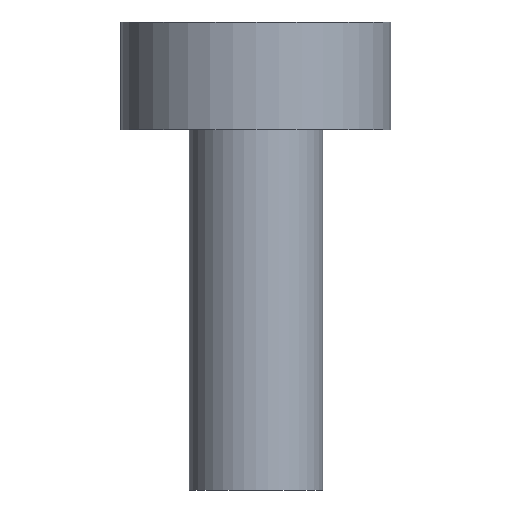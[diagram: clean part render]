
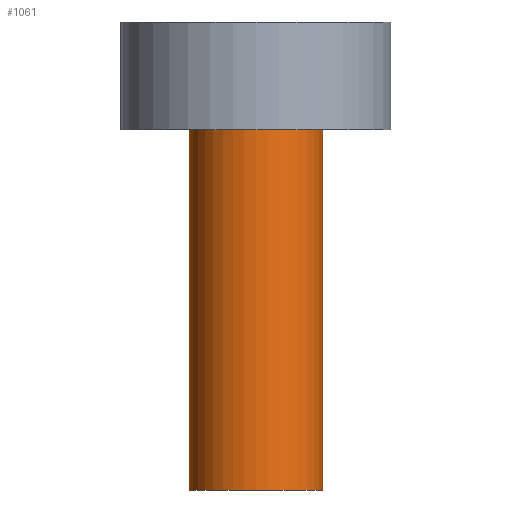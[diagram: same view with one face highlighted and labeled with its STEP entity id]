
A CAD part, front view. The second image highlights one B-rep face of the part: STEP entity #1061.
In plain terms, the highlighted cylindrical face has radius 1.48 mm (diameter 2.96 mm), a full revolution.
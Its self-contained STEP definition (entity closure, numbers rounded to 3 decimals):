
#111 = PLANE('',#112);
#112 = AXIS2_PLACEMENT_3D('',#113,#114,#115);
#113 = CARTESIAN_POINT('',(-16.,12.5,39.6));
#114 = DIRECTION('',(0.,0.,1.));
#115 = DIRECTION('',(1.,0.,-0.));
#448 = EDGE_CURVE('',#449,#449,#451,.T.);
#449 = VERTEX_POINT('',#450);
#450 = CARTESIAN_POINT('',(-14.52,12.5,39.6));
#451 = SURFACE_CURVE('',#452,(#457,#464),.PCURVE_S1.);
#452 = CIRCLE('',#453,1.48);
#453 = AXIS2_PLACEMENT_3D('',#454,#455,#456);
#454 = CARTESIAN_POINT('',(-16.,12.5,39.6));
#455 = DIRECTION('',(0.,0.,1.));
#456 = DIRECTION('',(1.,0.,-0.));
#457 = PCURVE('',#111,#458);
#458 = DEFINITIONAL_REPRESENTATION('',(#459),#463);
#459 = CIRCLE('',#460,1.48);
#460 = AXIS2_PLACEMENT_2D('',#461,#462);
#461 = CARTESIAN_POINT('',(0.,0.));
#462 = DIRECTION('',(1.,0.));
#463 = ( GEOMETRIC_REPRESENTATION_CONTEXT(2) 
PARAMETRIC_REPRESENTATION_CONTEXT() REPRESENTATION_CONTEXT('2D SPACE',''
  ) );
#464 = PCURVE('',#465,#470);
#465 = CYLINDRICAL_SURFACE('',#466,1.48);
#466 = AXIS2_PLACEMENT_3D('',#467,#468,#469);
#467 = CARTESIAN_POINT('',(-16.,12.5,31.6));
#468 = DIRECTION('',(0.,0.,1.));
#469 = DIRECTION('',(1.,0.,-0.));
#470 = DEFINITIONAL_REPRESENTATION('',(#471),#475);
#471 = LINE('',#472,#473);
#472 = CARTESIAN_POINT('',(0.,8.));
#473 = VECTOR('',#474,1.);
#474 = DIRECTION('',(1.,0.));
#475 = ( GEOMETRIC_REPRESENTATION_CONTEXT(2) 
PARAMETRIC_REPRESENTATION_CONTEXT() REPRESENTATION_CONTEXT('2D SPACE',''
  ) );
#1061 = ADVANCED_FACE('',(#1062),#465,.T.);
#1062 = FACE_BOUND('',#1063,.T.);
#1063 = EDGE_LOOP('',(#1064,#1065,#1088,#1115));
#1064 = ORIENTED_EDGE('',*,*,#448,.F.);
#1065 = ORIENTED_EDGE('',*,*,#1066,.F.);
#1066 = EDGE_CURVE('',#1067,#449,#1069,.T.);
#1067 = VERTEX_POINT('',#1068);
#1068 = CARTESIAN_POINT('',(-14.52,12.5,31.6));
#1069 = SEAM_CURVE('',#1070,(#1074,#1081),.PCURVE_S1.);
#1070 = LINE('',#1071,#1072);
#1071 = CARTESIAN_POINT('',(-14.52,12.5,31.6));
#1072 = VECTOR('',#1073,1.);
#1073 = DIRECTION('',(0.,0.,1.));
#1074 = PCURVE('',#465,#1075);
#1075 = DEFINITIONAL_REPRESENTATION('',(#1076),#1080);
#1076 = LINE('',#1077,#1078);
#1077 = CARTESIAN_POINT('',(6.283,-0.));
#1078 = VECTOR('',#1079,1.);
#1079 = DIRECTION('',(0.,1.));
#1080 = ( GEOMETRIC_REPRESENTATION_CONTEXT(2) 
PARAMETRIC_REPRESENTATION_CONTEXT() REPRESENTATION_CONTEXT('2D SPACE',''
  ) );
#1081 = PCURVE('',#465,#1082);
#1082 = DEFINITIONAL_REPRESENTATION('',(#1083),#1087);
#1083 = LINE('',#1084,#1085);
#1084 = CARTESIAN_POINT('',(0.,-0.));
#1085 = VECTOR('',#1086,1.);
#1086 = DIRECTION('',(0.,1.));
#1087 = ( GEOMETRIC_REPRESENTATION_CONTEXT(2) 
PARAMETRIC_REPRESENTATION_CONTEXT() REPRESENTATION_CONTEXT('2D SPACE',''
  ) );
#1088 = ORIENTED_EDGE('',*,*,#1089,.T.);
#1089 = EDGE_CURVE('',#1067,#1067,#1090,.T.);
#1090 = SURFACE_CURVE('',#1091,(#1096,#1103),.PCURVE_S1.);
#1091 = CIRCLE('',#1092,1.48);
#1092 = AXIS2_PLACEMENT_3D('',#1093,#1094,#1095);
#1093 = CARTESIAN_POINT('',(-16.,12.5,31.6));
#1094 = DIRECTION('',(0.,0.,1.));
#1095 = DIRECTION('',(1.,0.,-0.));
#1096 = PCURVE('',#465,#1097);
#1097 = DEFINITIONAL_REPRESENTATION('',(#1098),#1102);
#1098 = LINE('',#1099,#1100);
#1099 = CARTESIAN_POINT('',(0.,0.));
#1100 = VECTOR('',#1101,1.);
#1101 = DIRECTION('',(1.,0.));
#1102 = ( GEOMETRIC_REPRESENTATION_CONTEXT(2) 
PARAMETRIC_REPRESENTATION_CONTEXT() REPRESENTATION_CONTEXT('2D SPACE',''
  ) );
#1103 = PCURVE('',#1104,#1109);
#1104 = PLANE('',#1105);
#1105 = AXIS2_PLACEMENT_3D('',#1106,#1107,#1108);
#1106 = CARTESIAN_POINT('',(-16.,12.5,31.6));
#1107 = DIRECTION('',(0.,0.,1.));
#1108 = DIRECTION('',(1.,0.,-0.));
#1109 = DEFINITIONAL_REPRESENTATION('',(#1110),#1114);
#1110 = CIRCLE('',#1111,1.48);
#1111 = AXIS2_PLACEMENT_2D('',#1112,#1113);
#1112 = CARTESIAN_POINT('',(0.,0.));
#1113 = DIRECTION('',(1.,0.));
#1114 = ( GEOMETRIC_REPRESENTATION_CONTEXT(2) 
PARAMETRIC_REPRESENTATION_CONTEXT() REPRESENTATION_CONTEXT('2D SPACE',''
  ) );
#1115 = ORIENTED_EDGE('',*,*,#1066,.T.);
